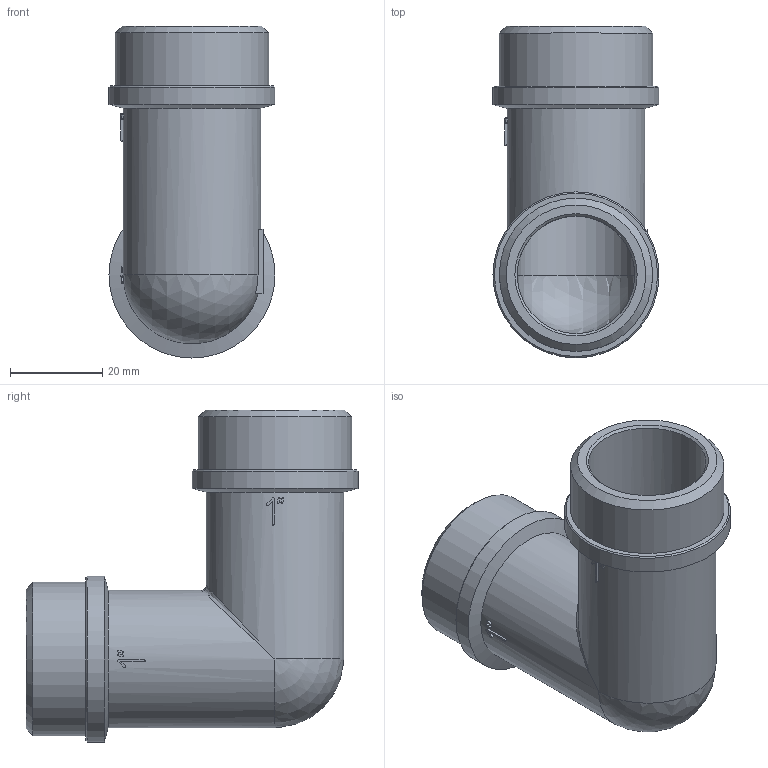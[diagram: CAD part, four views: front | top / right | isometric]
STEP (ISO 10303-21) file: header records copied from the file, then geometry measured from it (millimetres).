
FILE_DESCRIPTION(('STEP AP203'), '1');
FILE_NAME('ÂÐ.752212.003 - VTr.093.N.0006 - Ôèò. ðåçüá. óãîë', '2024-06-21T10:27:48', ('Boss'), (''), 'C3D Converter', 'C3D Toolkit', '');
FILE_SCHEMA(('CONFIG_CONTROL_DESIGN'));
Length unit declared in the file: millimetre
Products named in the file (1): ВР.752212.003
Bounding box: 36 x 72 x 72 mm (x, y, z)
Volume: 26959.4 mm3; surface area: 20234.6 mm2
Topology: 1 solids, 1 shells, 125 faces, 331 edges, 214 vertices
Faces by surface type: extrusion 54, plane 45, cylinder 15, cone 8, sphere 2, bspline 1
Full cylindrical faces by diameter (mm): 25.5 x2, 29.8 x2, 33.249 x2, 36 x2
Entity records: 4852 total; most frequent: CARTESIAN_POINT 2129, ORIENTED_EDGE 622, DIRECTION 381, EDGE_CURVE 311, VERTEX_POINT 214, VECTOR 181, B_SPLINE_CURVE_WITH_KNOTS 167, EDGE_LOOP 153
